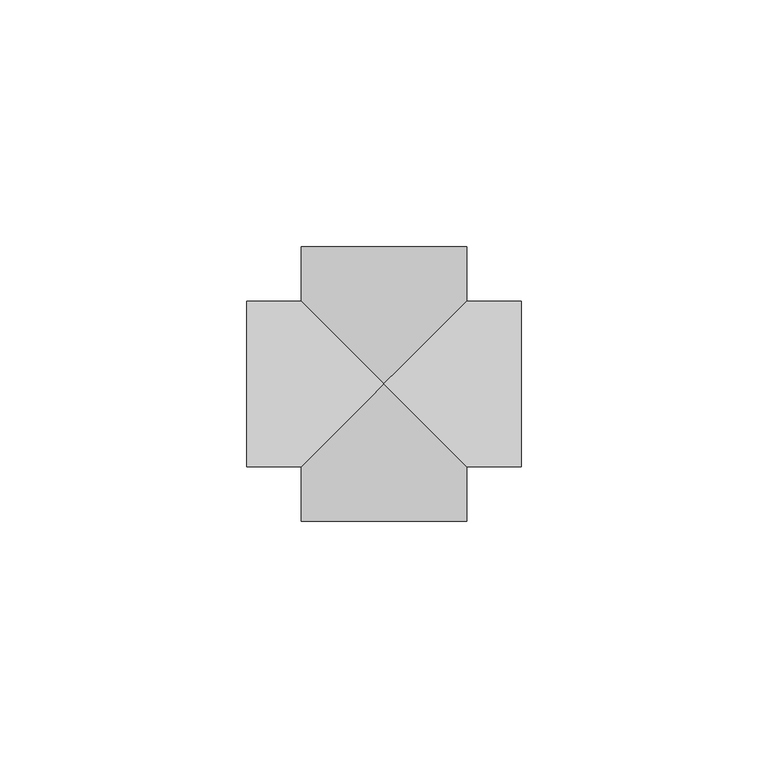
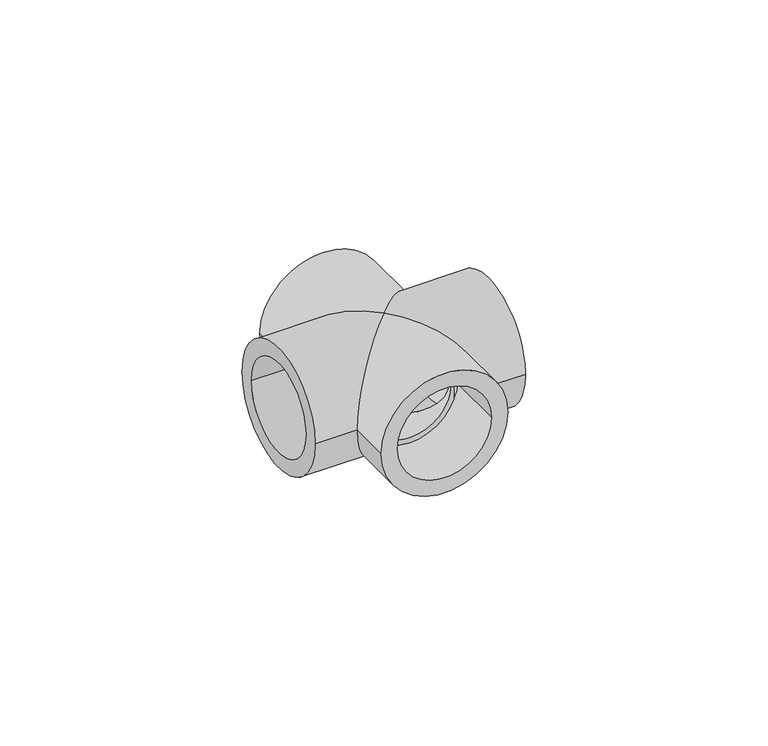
"""IFC4 building model written with IfcOpenShell, lengths in millimetres: pipe fitting geometry, 17_Крестовина : Белый цвет."""

from ifc_helpers import new_model, si_unit, frame, origin, place, context, project, spatial, polyline, circle_curve, ellipse_curve, source, transform, mapped, element, save
from ifc_brep_helpers import plane_surface, cylinder_surface, revolved_surface, advanced_brep


def pipe_fitting_68122e80(model_context):
    return source(origin(), model_context, "Body", "AdvancedBrep", [
        advanced_brep(
        [(27.855, -16.75, 0.0), (27.855, 16.75, 0.0), (27.855, 12.5, 0.0), (27.855, -12.5, 0.0), (-27.855, -16.75, 0.0), (-27.855, 16.75, 0.0), (-27.855, -12.5, 0.0), (-27.855, 12.5, 0.0), (16.75, -16.75, 0.0), (0.0, 0.0, -16.75), (16.75, 16.75, 0.0), (-16.75, 16.75, 0.0), (-16.75, -16.75, 0.0), (0.0, 0.0, 16.75), (-11.0, -11.0, 0.0), (-11.0, -11.755, 0.0), (11.0, -11.755, 0.0), (11.0, -11.0, 0.0), (0.0, 0.0, -11.0), (-11.0, 11.755, 0.0), (-11.0, 11.0, 0.0), (11.0, 11.0, 0.0), (11.0, 11.755, 0.0), (0.0, 0.0, 11.0), (-11.755, -11.0, 0.0), (-11.755, 11.0, 0.0), (11.755, 11.0, 0.0), (11.755, -11.0, 0.0), (-11.755, 11.755, -4.2508793), (-11.755, 11.755, 4.2508793), (11.755, 11.755, 4.2508793), (11.755, 11.755, -4.2508793), (12.5, 27.855, 0.0), (-12.5, 27.855, 0.0), (-12.5, 12.5, 0.0), (12.5, 12.5, 0.0), (-16.75, -27.855, 0.0), (16.75, -27.855, 0.0), (12.5, -27.855, 0.0), (-12.5, -27.855, 0.0), (-16.75, 27.855, 0.0), (16.75, 27.855, 0.0), (-11.755, -11.755, -4.2508793), (-11.755, -11.755, 4.2508793), (-12.5, -12.5, 0.0), (11.755, -11.755, -4.2508793), (11.755, -11.755, 4.2508793), (12.5, -12.5, 0.0)],
        [
            (0, 1, circle_curve(frame((27.855, 0.0, 0.0), z_axis=(1.0, 0.0, 0.0), x_axis=(0.0, 1.0, 0.0)), 16.75)),
            (1, 0, circle_curve(frame((27.855, 0.0, 0.0), z_axis=(1.0, 0.0, 0.0), x_axis=(0.0, 1.0, 0.0)), 16.75)),
            (2, 3, circle_curve(frame((27.855, 0.0, 0.0), z_axis=(-1.0, 0.0, 0.0), x_axis=(0.0, 1.0, 0.0)), 12.5)),
            (3, 2, circle_curve(frame((27.855, 0.0, 0.0), z_axis=(-1.0, 0.0, 0.0), x_axis=(0.0, 1.0, 0.0)), 12.5)),
            (4, 5, circle_curve(frame((-27.855, 0.0, 0.0), z_axis=(-1.0, 0.0, 0.0), x_axis=(0.0, 1.0, 0.0)), 16.75)),
            (5, 4, circle_curve(frame((-27.855, 0.0, 0.0), z_axis=(-1.0, 0.0, 0.0), x_axis=(0.0, 1.0, 0.0)), 16.75)),
            (6, 7, circle_curve(frame((-27.855, 0.0, 0.0), z_axis=(1.0, 0.0, 0.0), x_axis=(0.0, 1.0, 0.0)), 12.5)),
            (7, 6, circle_curve(frame((-27.855, 0.0, 0.0), z_axis=(1.0, 0.0, 0.0), x_axis=(0.0, 1.0, 0.0)), 12.5)),
            (0, 8),
            (8, 9, ellipse_curve(frame((0.0, 0.0, 0.0), z_axis=(0.7071067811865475, 0.7071067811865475, 0.0), x_axis=(0.7071067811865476, -0.7071067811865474, 0.0)), 23.6880772, 16.75)),
            (9, 10, ellipse_curve(frame((0.0, 0.0, 0.0), z_axis=(0.7071067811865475, -0.7071067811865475, 0.0), x_axis=(0.7071067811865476, 0.7071067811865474, 0.0)), 23.6880772, 16.75)),
            (10, 1),
            (5, 11),
            (11, 9, ellipse_curve(frame((0.0, 0.0, 0.0), z_axis=(-0.7071067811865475, -0.7071067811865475, 0.0), x_axis=(0.7071067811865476, -0.7071067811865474, 0.0)), 23.6880772, 16.75)),
            (9, 12, ellipse_curve(frame((0.0, 0.0, 0.0), z_axis=(-0.7071067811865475, 0.7071067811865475, 0.0), x_axis=(0.7071067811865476, 0.7071067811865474, 0.0)), 23.6880772, 16.75)),
            (12, 4),
            (10, 13, ellipse_curve(frame((0.0, 0.0, 0.0), z_axis=(0.7071067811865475, -0.7071067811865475, 0.0), x_axis=(0.7071067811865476, 0.7071067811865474, 0.0)), 23.6880772, 16.75)),
            (13, 8, ellipse_curve(frame((0.0, 0.0, 0.0), z_axis=(0.7071067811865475, 0.7071067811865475, 0.0), x_axis=(0.7071067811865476, -0.7071067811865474, 0.0)), 23.6880772, 16.75)),
            (12, 13, ellipse_curve(frame((0.0, 0.0, 0.0), z_axis=(-0.7071067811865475, 0.7071067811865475, 0.0), x_axis=(0.7071067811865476, 0.7071067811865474, 0.0)), 23.6880772, 16.75)),
            (13, 11, ellipse_curve(frame((0.0, 0.0, 0.0), z_axis=(-0.7071067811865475, -0.7071067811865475, 0.0), x_axis=(0.7071067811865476, -0.7071067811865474, 0.0)), 23.6880772, 16.75)),
            (14, 15),
            (15, 16, circle_curve(frame((0.0, -11.755, 0.0), z_axis=(0.0, -1.0, 0.0), x_axis=(1.0, 0.0, 0.0)), 11.0)),
            (16, 17),
            (17, 18, ellipse_curve(frame((0.0, 0.0, 0.0), z_axis=(0.7071067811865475, 0.7071067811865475, 0.0), x_axis=(0.7071067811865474, -0.7071067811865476, 0.0)), 15.5563492, 11.0)),
            (18, 14, ellipse_curve(frame((0.0, 0.0, 0.0), z_axis=(-0.7071067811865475, 0.7071067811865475, 0.0), x_axis=(-0.7071067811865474, -0.7071067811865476, 0.0)), 15.5563492, 11.0)),
            (19, 20),
            (20, 18, ellipse_curve(frame((0.0, 0.0, 0.0), z_axis=(-0.7071067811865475, -0.7071067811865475, 0.0), x_axis=(0.7071067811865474, -0.7071067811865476, 0.0)), 15.5563492, 11.0)),
            (18, 21, ellipse_curve(frame((0.0, 0.0, 0.0), z_axis=(0.7071067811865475, -0.7071067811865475, 0.0), x_axis=(-0.7071067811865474, -0.7071067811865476, 0.0)), 15.5563492, 11.0)),
            (21, 22),
            (22, 19, circle_curve(frame((0.0, 11.755, 0.0), z_axis=(0.0, 1.0, 0.0), x_axis=(1.0, 0.0, 0.0)), 11.0)),
            (14, 23, ellipse_curve(frame((0.0, 0.0, 0.0), z_axis=(-0.7071067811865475, 0.7071067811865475, 0.0), x_axis=(-0.7071067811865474, -0.7071067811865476, 0.0)), 15.5563492, 11.0)),
            (23, 17, ellipse_curve(frame((0.0, 0.0, 0.0), z_axis=(0.7071067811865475, 0.7071067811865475, 0.0), x_axis=(0.7071067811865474, -0.7071067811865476, 0.0)), 15.5563492, 11.0)),
            (16, 15, circle_curve(frame((0.0, -11.755, 0.0), z_axis=(0.0, -1.0, 0.0), x_axis=(1.0, 0.0, 0.0)), 11.0)),
            (19, 22, circle_curve(frame((0.0, 11.755, 0.0), z_axis=(0.0, 1.0, 0.0), x_axis=(1.0, 0.0, 0.0)), 11.0)),
            (21, 23, ellipse_curve(frame((0.0, 0.0, 0.0), z_axis=(0.7071067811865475, -0.7071067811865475, 0.0), x_axis=(-0.7071067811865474, -0.7071067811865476, 0.0)), 15.5563492, 11.0)),
            (23, 20, ellipse_curve(frame((0.0, 0.0, 0.0), z_axis=(-0.7071067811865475, -0.7071067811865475, 0.0), x_axis=(0.7071067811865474, -0.7071067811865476, 0.0)), 15.5563492, 11.0)),
            (24, 14),
            (20, 25),
            (25, 24, circle_curve(frame((-11.755, 0.0, 0.0), z_axis=(-1.0, 0.0, 0.0), x_axis=(0.0, 1.0, 0.0)), 11.0)),
            (26, 21),
            (17, 27),
            (27, 26, circle_curve(frame((11.755, 0.0, 0.0), z_axis=(1.0, 0.0, 0.0), x_axis=(0.0, 1.0, 0.0)), 11.0)),
            (24, 25, circle_curve(frame((-11.755, 0.0, 0.0), z_axis=(-1.0, 0.0, 0.0), x_axis=(0.0, 1.0, 0.0)), 11.0)),
            (26, 27, circle_curve(frame((11.755, 0.0, 0.0), z_axis=(1.0, 0.0, 0.0), x_axis=(0.0, 1.0, 0.0)), 11.0)),
            (28, 29),
            (29, 30, circle_curve(frame((0.0, 11.755, 0.0), z_axis=(0.0, 1.0, 0.0), x_axis=(1.0, 0.0, 0.0)), 12.5)),
            (30, 31),
            (31, 28, circle_curve(frame((0.0, 11.755, 0.0), z_axis=(0.0, 1.0, 0.0), x_axis=(1.0, 0.0, 0.0)), 12.5)),
            (32, 33, circle_curve(frame((0.0, 27.855, 0.0), z_axis=(0.0, 1.0, 0.0), x_axis=(1.0, 0.0, 0.0)), 12.5)),
            (33, 34),
            (34, 28, ellipse_curve(frame((0.0, 0.0, 0.0), z_axis=(-0.7071067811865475, -0.7071067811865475, 0.0), x_axis=(-0.7071067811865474, 0.7071067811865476, 0.0)), 17.6776695, 12.5)),
            (31, 35, ellipse_curve(frame((0.0, 0.0, 0.0), z_axis=(0.7071067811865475, -0.7071067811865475, 0.0), x_axis=(0.7071067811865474, 0.7071067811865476, 0.0)), 17.6776695, 12.5)),
            (35, 32),
            (33, 32, circle_curve(frame((0.0, 27.855, 0.0), z_axis=(0.0, 1.0, 0.0), x_axis=(1.0, 0.0, 0.0)), 12.5)),
            (35, 30, ellipse_curve(frame((0.0, 0.0, 0.0), z_axis=(0.7071067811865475, -0.7071067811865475, 0.0), x_axis=(0.7071067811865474, 0.7071067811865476, 0.0)), 17.6776695, 12.5)),
            (29, 34, ellipse_curve(frame((0.0, 0.0, 0.0), z_axis=(-0.7071067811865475, -0.7071067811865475, 0.0), x_axis=(-0.7071067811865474, 0.7071067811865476, 0.0)), 17.6776695, 12.5)),
            (36, 37, circle_curve(frame((0.0, -27.855, 0.0), z_axis=(0.0, -1.0, 0.0), x_axis=(1.0, 0.0, 0.0)), 16.75)),
            (37, 36, circle_curve(frame((0.0, -27.855, 0.0), z_axis=(0.0, -1.0, 0.0), x_axis=(1.0, 0.0, 0.0)), 16.75)),
            (38, 39, circle_curve(frame((0.0, -27.855, 0.0), z_axis=(0.0, 1.0, 0.0), x_axis=(1.0, 0.0, 0.0)), 12.5)),
            (39, 38, circle_curve(frame((0.0, -27.855, 0.0), z_axis=(0.0, 1.0, 0.0), x_axis=(1.0, 0.0, 0.0)), 12.5)),
            (40, 41, circle_curve(frame((0.0, 27.855, 0.0), z_axis=(0.0, 1.0, 0.0), x_axis=(1.0, 0.0, 0.0)), 16.75)),
            (41, 40, circle_curve(frame((0.0, 27.855, 0.0), z_axis=(0.0, 1.0, 0.0), x_axis=(1.0, 0.0, 0.0)), 16.75)),
            (36, 12),
            (8, 37),
            (41, 10),
            (11, 40),
            (28, 42, circle_curve(frame((-11.755, 0.0, 0.0), z_axis=(-1.0, 0.0, 0.0), x_axis=(0.0, 1.0, 0.0)), 12.5)),
            (42, 43),
            (43, 29, circle_curve(frame((-11.755, 0.0, 0.0), z_axis=(-1.0, 0.0, 0.0), x_axis=(0.0, 1.0, 0.0)), 12.5)),
            (34, 7),
            (6, 44),
            (44, 42, ellipse_curve(frame((0.0, 0.0, 0.0), z_axis=(0.7071067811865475, -0.7071067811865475, 0.0), x_axis=(-0.7071067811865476, -0.7071067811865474, 0.0)), 17.6776695, 12.5)),
            (43, 44, ellipse_curve(frame((0.0, 0.0, 0.0), z_axis=(0.7071067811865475, -0.7071067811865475, 0.0), x_axis=(-0.7071067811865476, -0.7071067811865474, 0.0)), 17.6776695, 12.5)),
            (42, 45, circle_curve(frame((0.0, -11.755, 0.0), z_axis=(0.0, -1.0, 0.0), x_axis=(1.0, 0.0, 0.0)), 12.5)),
            (45, 46),
            (46, 43, circle_curve(frame((0.0, -11.755, 0.0), z_axis=(0.0, -1.0, 0.0), x_axis=(1.0, 0.0, 0.0)), 12.5)),
            (44, 39),
            (38, 47),
            (47, 45, ellipse_curve(frame((0.0, 0.0, 0.0), z_axis=(0.7071067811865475, 0.7071067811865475, 0.0), x_axis=(0.7071067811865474, -0.7071067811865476, 0.0)), 17.6776695, 12.5)),
            (46, 47, ellipse_curve(frame((0.0, 0.0, 0.0), z_axis=(0.7071067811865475, 0.7071067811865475, 0.0), x_axis=(0.7071067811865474, -0.7071067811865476, 0.0)), 17.6776695, 12.5)),
            (30, 46, circle_curve(frame((11.755, 0.0, 0.0), z_axis=(1.0, 0.0, 0.0), x_axis=(0.0, 1.0, 0.0)), 12.5)),
            (45, 31, circle_curve(frame((11.755, 0.0, 0.0), z_axis=(1.0, 0.0, 0.0), x_axis=(0.0, 1.0, 0.0)), 12.5)),
            (2, 35),
            (47, 3),
        ],
        [
            plane_surface(frame((27.855, 16.75, 0.0), z_axis=(1.0, 0.0, 0.0), x_axis=(0.0, 0.0, 1.0))),
            plane_surface(frame((-27.855, 16.75, 0.0), z_axis=(-1.0, 0.0, 0.0), x_axis=(0.0, 0.0, -1.0))),
            cylinder_surface(frame((-27.855, 0.0, 0.0), z_axis=(1.0, 0.0, 0.0), x_axis=(0.0, 1.0, 0.0)), 16.75),
            revolved_surface(polyline([(11.0, -11.755, 0.0), (11.0, 11.000000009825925, 0.0)]), (0.0, 11.755, 0.0), (0.0, -1.0, 0.0)),
            revolved_surface(polyline([(11.0, -11.000000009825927, 0.0), (11.0, 11.755, 0.0)]), (0.0, 11.755, 0.0), (0.0, -1.0, 0.0)),
            revolved_surface(polyline([(11.00000000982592, 11.0, 0.0), (-11.755, 11.0, 0.0)]), (-11.755, 0.0, 0.0), (1.0, 0.0, 0.0)),
            revolved_surface(polyline([(11.755, 11.0, 0.0), (-11.000000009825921, 11.0, 0.0)]), (-11.755, 0.0, 0.0), (1.0, 0.0, 0.0)),
            plane_surface(frame((12.5, 11.755, 0.0), z_axis=(0.0, 1.0, 0.0), x_axis=(0.0, 0.0, 1.0))),
            revolved_surface(polyline([(12.5, 27.855000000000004, 0.0), (12.5, -12.499999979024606, 0.0)]), (0.0, 11.755, 0.0), (0.0, 1.0, 0.0)),
            plane_surface(frame((16.75, -27.855, 0.0), z_axis=(0.0, -1.0, 0.0), x_axis=(0.0, 0.0, 1.0))),
            plane_surface(frame((16.75, 27.855, 0.0), z_axis=(0.0, 1.0, 0.0), x_axis=(0.0, 0.0, -1.0))),
            cylinder_surface(frame((0.0, 27.855, 0.0), z_axis=(0.0, -1.0, 0.0), x_axis=(1.0, 0.0, 0.0)), 16.75),
            plane_surface(frame((-11.755, 12.5, 0.0), z_axis=(-1.0, 0.0, 0.0), x_axis=(0.0, 0.0, 1.0))),
            revolved_surface(polyline([(-27.855000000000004, 12.5, 0.0), (12.499999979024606, 12.5, 0.0)]), (-11.755, 0.0, 0.0), (-1.0, 0.0, 0.0)),
            plane_surface(frame((12.5, -11.755, 0.0), z_axis=(0.0, -1.0, 0.0), x_axis=(0.0, 0.0, -1.0))),
            revolved_surface(polyline([(12.5, -27.855000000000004, 0.0), (12.5, 12.499999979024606, 0.0)]), (0.0, -11.755, 0.0), (0.0, -1.0, 0.0)),
            plane_surface(frame((11.755, 12.5, 0.0), z_axis=(1.0, 0.0, 0.0), x_axis=(0.0, 0.0, -1.0))),
            revolved_surface(polyline([(27.855000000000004, 12.5, 0.0), (-12.499999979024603, 12.5, 0.0)]), (11.755, 0.0, 0.0), (1.0, 0.0, 0.0)),
        ],
        [
            (0, [[1, 2], [3, 4]]),
            (1, [[5, 6], [7, 8]]),
            (2, [[-1, 9, 10, 11, 12]]),
            (2, [[-6, 13, 14, 15, 16]]),
            (2, [[-2, -12, 17, 18, -9]]),
            (2, [[-5, -16, 19, 20, -13]]),
            (3, [[21, 22, 23, 24, 25]]),
            (4, [[26, 27, 28, 29, 30]]),
            (3, [[-21, 31, 32, -23, 33]]),
            (4, [[-26, 34, -29, 35, 36]]),
            (5, [[37, -25, -27, 38, 39]]),
            (6, [[40, -28, -24, 41, 42]]),
            (5, [[-37, 43, -38, -36, -31]]),
            (6, [[-40, 44, -41, -32, -35]]),
            (7, [[45, 46, 47, 48], [-30, -34]]),
            (8, [[49, 50, 51, -48, 52, 53]]),
            (8, [[54, -53, 55, -46, 56, -50]]),
            (9, [[57, 58], [59, 60]]),
            (10, [[61, 62], [-49, -54]]),
            (11, [[-57, 63, -15, -10, 64]]),
            (11, [[-62, 65, -11, -14, 66]]),
            (11, [[-58, -64, -18, -19, -63]]),
            (11, [[-61, -66, -20, -17, -65]]),
            (12, [[-45, 67, 68, 69], [-39, -43]]),
            (13, [[70, -7, 71, 72, -67, -51]]),
            (13, [[-70, -56, -69, 73, -71, -8]]),
            (14, [[-68, 74, 75, 76], [-22, -33]]),
            (15, [[77, -59, 78, 79, -74, -72]]),
            (15, [[-77, -73, -76, 80, -78, -60]]),
            (16, [[81, -75, 82, -47], [-42, -44]]),
            (17, [[83, -52, -82, -79, 84, -3]]),
            (17, [[-83, -4, -84, -80, -81, -55]]),
        ],
    ),
    ])


if __name__ == "__main__":
    model = new_model("IFC4")
    model_context = context("Model", 3, world=origin())
    ifc_project = project(units=[si_unit("LENGTHUNIT", "METRE", prefix="MILLI")], contexts=[model_context])
    site = spatial("IfcSite", under=ifc_project)
    building = spatial("IfcBuilding", under=site)
    placement = place(None, origin())
    pipe_fitting_shape = pipe_fitting_68122e80(model_context)
    element("IfcPipeFitting", 1, ObjectType="17_Крестовина : Белый цвет", at=placement, inside=building, context=model_context, shape_type="MappedRepresentation", body=[
        mapped(pipe_fitting_shape, transform((0.0, 0.0, 0.0), x_axis=(1.0, 0.0, 0.0), y_axis=(0.0, 1.0, 0.0), z_axis=(0.0, 0.0, 1.0))),
    ])
    save(model, "model.ifc")
